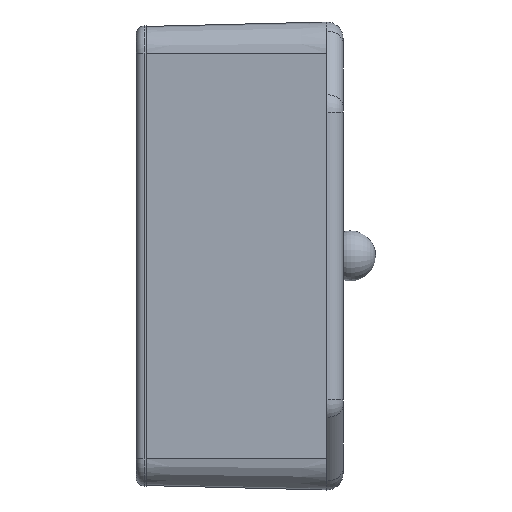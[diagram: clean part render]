
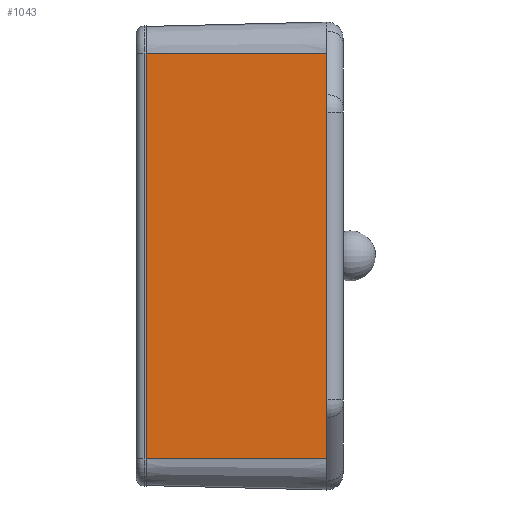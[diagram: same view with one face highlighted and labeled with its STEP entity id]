
A CAD part, left-side view. The second image highlights one B-rep face of the part: STEP entity #1043.
In plain terms, the highlighted planar face has unit normal (-1, 0.025, 0).
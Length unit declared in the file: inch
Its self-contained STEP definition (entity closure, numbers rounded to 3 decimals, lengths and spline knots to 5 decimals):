
#204 = CARTESIAN_POINT ( 'NONE',  ( -2.53489, -1.377, 1.544 ) ) ;
#212 = DIRECTION ( 'NONE',  ( 0., 0., 1. ) ) ;
#414 = ORIENTED_EDGE ( 'NONE', *, *, #6573, .F. ) ;
#415 = ORIENTED_EDGE ( 'NONE', *, *, #6574, .F. ) ;
#416 = ORIENTED_EDGE ( 'NONE', *, *, #6533, .T. ) ;
#417 = ORIENTED_EDGE ( 'NONE', *, *, #6572, .T. ) ;
#1043 = ADVANCED_FACE ( 'NONE', ( #5504 ), #3887, .T. ) ;
#1904 = CARTESIAN_POINT ( 'NONE',  ( -2.53489, -1.377, -1.544 ) ) ;
#1912 = CARTESIAN_POINT ( 'NONE',  ( -2.53489, -1.377, 1.544 ) ) ;
#1926 = DIRECTION ( 'NONE',  ( -0.025, -1., 0. ) ) ;
#1934 = CARTESIAN_POINT ( 'NONE',  ( -2.501, 0., 1.544 ) ) ;
#1935 = CARTESIAN_POINT ( 'NONE',  ( -2.501, 0., -1.544 ) ) ;
#3157 = VERTEX_POINT ( 'NONE', #1935 ) ;
#3158 = VERTEX_POINT ( 'NONE', #1934 ) ;
#3883 = DIRECTION ( 'NONE',  ( -1., 0.025, 0. ) ) ;
#3887 = PLANE ( 'NONE',  #4632 ) ;
#3889 = CARTESIAN_POINT ( 'NONE',  ( -2.501, 0., -1.544 ) ) ;
#4316 = LINE ( 'NONE', #204, #4318 ) ;
#4318 = VECTOR ( 'NONE', #212, 39.37008 ) ;
#4375 = LINE ( 'NONE', #4755, #4377 ) ;
#4376 = LINE ( 'NONE', #4764, #4379 ) ;
#4377 = VECTOR ( 'NONE', #4754, 39.37008 ) ;
#4378 = LINE ( 'NONE', #4766, #4381 ) ;
#4379 = VECTOR ( 'NONE', #4765, 39.37008 ) ;
#4381 = VECTOR ( 'NONE', #4767, 39.37008 ) ;
#4632 = AXIS2_PLACEMENT_3D ( 'NONE', #3889, #3883, #1926 ) ;
#4754 = DIRECTION ( 'NONE',  ( 0.025, 1., 0. ) ) ;
#4755 = CARTESIAN_POINT ( 'NONE',  ( -2.501, 0., 1.544 ) ) ;
#4764 = CARTESIAN_POINT ( 'NONE',  ( -2.501, 0., -1.544 ) ) ;
#4765 = DIRECTION ( 'NONE',  ( 0., 0., 1. ) ) ;
#4766 = CARTESIAN_POINT ( 'NONE',  ( -2.501, 0., -1.544 ) ) ;
#4767 = DIRECTION ( 'NONE',  ( 0.025, 1., 0. ) ) ;
#5108 = VERTEX_POINT ( 'NONE', #1912 ) ;
#5109 = VERTEX_POINT ( 'NONE', #1904 ) ;
#5504 = FACE_OUTER_BOUND ( 'NONE', #6841, .T. ) ;
#6533 = EDGE_CURVE ( 'NONE', #5109, #5108, #4316, .T. ) ;
#6572 = EDGE_CURVE ( 'NONE', #5108, #3158, #4375, .T. ) ;
#6573 = EDGE_CURVE ( 'NONE', #3157, #3158, #4376, .T. ) ;
#6574 = EDGE_CURVE ( 'NONE', #5109, #3157, #4378, .T. ) ;
#6841 = EDGE_LOOP ( 'NONE', ( #414, #415, #416, #417 ) ) ;
